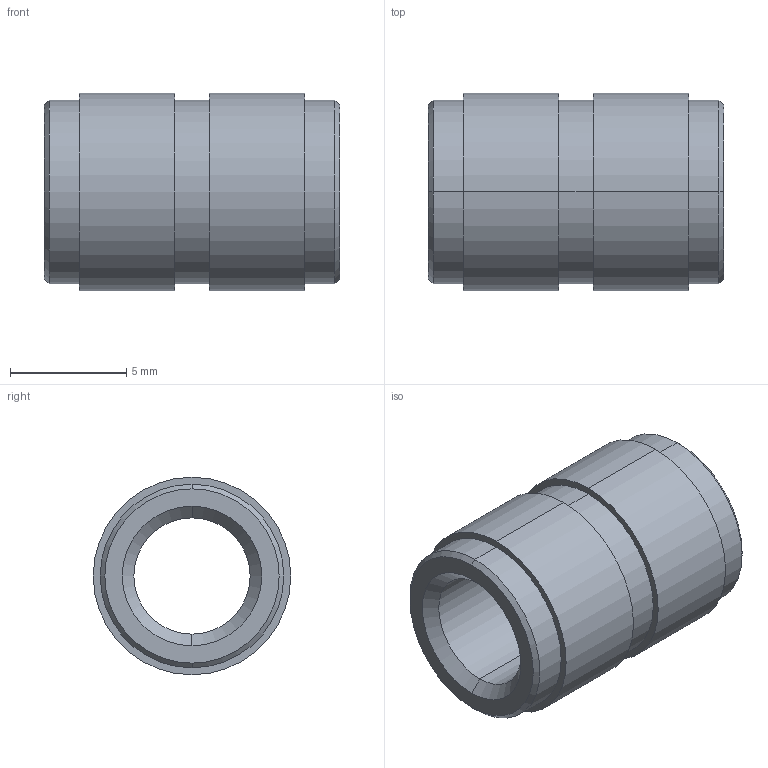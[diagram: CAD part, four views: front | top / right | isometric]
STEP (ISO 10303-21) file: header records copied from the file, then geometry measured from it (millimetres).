
FILE_DESCRIPTION (( 'STEP AP203' ), '1' );
FILE_NAME ('FSUK-HIHL-M06-S.STEP', '2021-04-15T12:48:43', ( '' ), ( '' ), 'SwSTEP 2.0', 'SolidWorks 2021', '' );
FILE_SCHEMA (( 'CONFIG_CONTROL_DESIGN' ));
Length unit declared in the file: millimetre
Products named in the file (1): FSUK-HIHL-M06-S
Bounding box: 12.7 x 8.5 x 8.5 mm (x, y, z)
Volume: 431.4 mm3; surface area: 605.4 mm2
Topology: 1 solids, 1 shells, 26 faces, 52 edges, 32 vertices
Faces by surface type: cylinder 12, cone 8, plane 6
Entity records: 765 total; most frequent: DIRECTION 138, CARTESIAN_POINT 111, ORIENTED_EDGE 104, AXIS2_PLACEMENT_3D 59, EDGE_CURVE 52, CIRCLE 32, VERTEX_POINT 32, EDGE_LOOP 32
